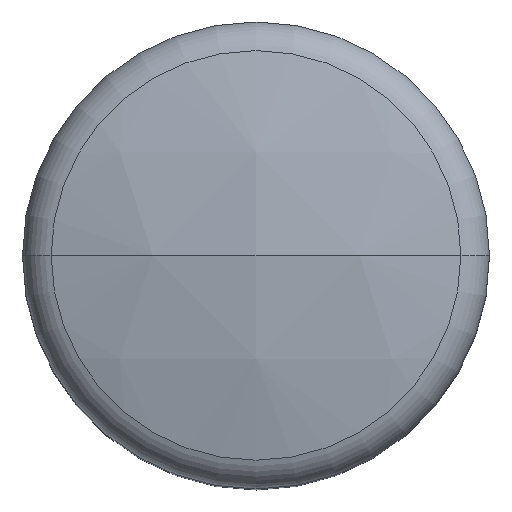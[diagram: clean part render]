
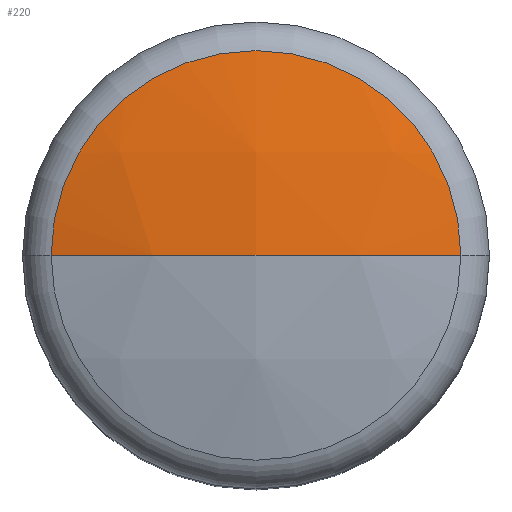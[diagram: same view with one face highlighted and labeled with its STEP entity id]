
A CAD part, top view. The second image highlights one B-rep face of the part: STEP entity #220.
In plain terms, the highlighted spherical face has radius 30 mm.
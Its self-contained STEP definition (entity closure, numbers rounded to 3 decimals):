
#37 = CARTESIAN_POINT ( 'NONE',  ( 0., 0., 70. ) ) ;
#38 = CIRCLE ( 'NONE', #308, 7.895 ) ;
#57 = VERTEX_POINT ( 'NONE', #486 ) ;
#65 = AXIS2_PLACEMENT_3D ( 'NONE', #37, #67, #203 ) ;
#67 = DIRECTION ( 'NONE',  ( 0., -1., 0. ) ) ;
#71 = DIRECTION ( 'NONE',  ( 0., 0., -1. ) ) ;
#84 = EDGE_LOOP ( 'NONE', ( #261, #527 ) ) ;
#118 = DIRECTION ( 'NONE',  ( -1., 0., 0. ) ) ;
#137 = CARTESIAN_POINT ( 'NONE',  ( 0., 0., 70. ) ) ;
#164 = CARTESIAN_POINT ( 'NONE',  ( -7.895, 0., 98.943 ) ) ;
#186 = AXIS2_PLACEMENT_3D ( 'NONE', #137, #378, #327 ) ;
#203 = DIRECTION ( 'NONE',  ( 0., 0., -1. ) ) ;
#220 = ADVANCED_FACE ( 'NONE', ( #406 ), #534, .T. ) ;
#261 = ORIENTED_EDGE ( 'NONE', *, *, #494, .F. ) ;
#308 = AXIS2_PLACEMENT_3D ( 'NONE', #339, #71, #118 ) ;
#327 = DIRECTION ( 'NONE',  ( 0., 0., 1. ) ) ;
#339 = CARTESIAN_POINT ( 'NONE',  ( 0., 0., 98.943 ) ) ;
#344 = CIRCLE ( 'NONE', #65, 30. ) ;
#378 = DIRECTION ( 'NONE',  ( 0., 1., 0. ) ) ;
#406 = FACE_OUTER_BOUND ( 'NONE', #84, .T. ) ;
#433 = EDGE_CURVE ( 'NONE', #447, #57, #38, .T. ) ;
#447 = VERTEX_POINT ( 'NONE', #164 ) ;
#486 = CARTESIAN_POINT ( 'NONE',  ( 7.895, 0., 98.943 ) ) ;
#494 = EDGE_CURVE ( 'NONE', #57, #447, #344, .T. ) ;
#527 = ORIENTED_EDGE ( 'NONE', *, *, #433, .F. ) ;
#534 = SPHERICAL_SURFACE ( 'NONE', #186, 30. ) ;
